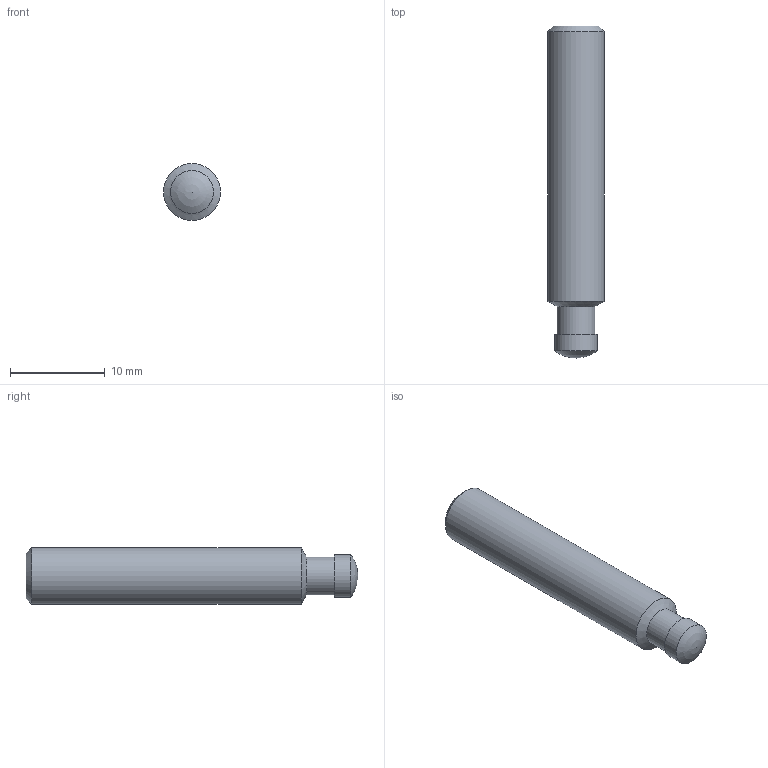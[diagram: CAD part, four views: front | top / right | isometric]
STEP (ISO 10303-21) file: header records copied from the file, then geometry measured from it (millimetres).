
FILE_DESCRIPTION( ( 'STEP AP203' ), '1' );
FILE_NAME( 'C:/Temp/Ganter_Step_05_03_2020/data/3_2/din6332/din6332/Grub screw DIN 6332-M6-35-SKN.stp', '2020-03-13T05:16:27', ( 'License CC BY-ND 4.0' ), ( 'CADENAS' ), ' ', 'PARTsolutions', ' ' );
FILE_SCHEMA( ( 'CONFIG_CONTROL_DESIGN' ) );
Length unit declared in the file: millimetre
Products named in the file (1): _Grub screw DIN 6332-M6-35-SKN
Bounding box: 6 x 35 x 6 mm (x, y, z)
Volume: 883.3 mm3; surface area: 689 mm2
Topology: 1 solids, 1 shells, 15 faces, 33 edges, 21 vertices
Faces by surface type: plane 9, cylinder 3, cone 2, sphere 1
Full cylindrical faces by diameter (mm): 4 x1, 4.5 x1, 6 x1
Entity records: 410 total; most frequent: DIRECTION 64, CARTESIAN_POINT 61, ORIENTED_EDGE 50, EDGE_CURVE 25, AXIS2_PLACEMENT_3D 23, EDGE_LOOP 22, VERTEX_POINT 20, FACE_OUTER_BOUND 18
